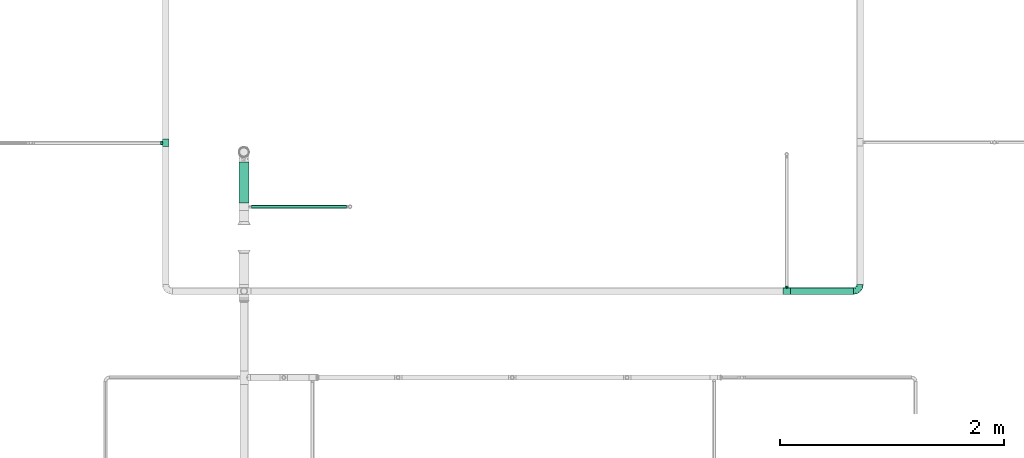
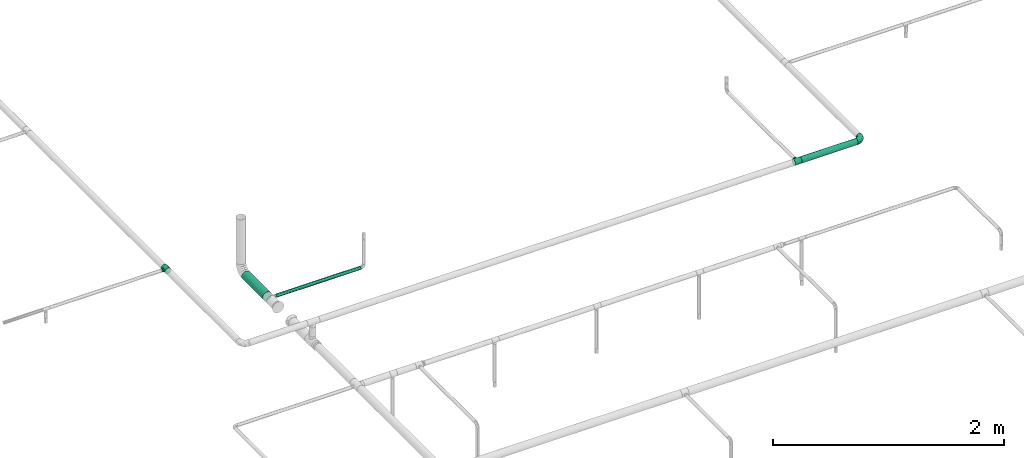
# One storey, part 6 of 45: 3 flow fittings, 3 flow segments.
"""IFC2X3 building model written with IfcOpenShell, lengths in millimetres."""

import ifcopenshell
import ifcopenshell.guid

model = None  # the IFC model being written
_history = None  # IfcOwnerHistory: only IFC2X3 demands one
_inside = {}  # id of a spatial element -> (the spatial element, [elements in it])
_under = {}  # id of a project, library or spatial element -> (it, [spatial elements below it])
_declared = {}  # id of a project -> (the project, [libraries it declares])
_typed = {}  # id of a type object -> (the type object, [elements of that type])
_made_of = {}  # id of a material, layer set ... -> (it, [elements and type objects made of it])


def new_model(schema):
    """Start an empty IFC model of exactly this schema.

    Asked for "IFC4X3", IfcOpenShell would pick the latest addendum, in which some entities
    have other attributes; the version numbers below select the first issue.
    IFC2X3 requires an IfcOwnerHistory on every rooted entity: one is made here for all.
    """
    global model, _history
    if schema == "IFC4X3":
        model = ifcopenshell.file(schema_version=(4, 3, 0, 0))
    else:
        model = ifcopenshell.file(schema=schema)
    _inside.clear()
    _under.clear()
    _declared.clear()
    _typed.clear()
    _made_of.clear()
    _history = None
    if model.schema == "IFC2X3":
        org = make("IfcOrganization", Name="unknown")
        user = make(
            "IfcPersonAndOrganization",
            ThePerson=make("IfcPerson", FamilyName="unknown"),
            TheOrganization=org,
        )
        app = make(
            "IfcApplication",
            ApplicationDeveloper=org,
            Version="unknown",
            ApplicationFullName="unknown",
            ApplicationIdentifier="unknown",
        )
        _history = make(
            "IfcOwnerHistory",
            OwningUser=user,
            OwningApplication=app,
            ChangeAction="ADDED",
            CreationDate=0,
        )
    return model


def make(cls, **values):
    """One entity of the class cls with the attributes given. An attribute that is None is left unset."""
    return model.create_entity(
        cls, **{name: value for name, value in values.items() if value is not None}
    )


def entity(cls, *values):
    """Any entity or typed value of the class cls, its attributes in the order of the schema. None: left unset."""
    e = model.create_entity(cls)
    for i, value in enumerate(values):
        if value is not None:
            e[i] = value
    return e


def rooted(cls, **values):
    """An entity with a GlobalId (a new one), such as an element, a storey or a relation."""
    return make(cls, GlobalId=ifcopenshell.guid.new(), OwnerHistory=_history, **values)


def si_unit(unit_type, name, prefix=None):
    """IfcSIUnit, for example si_unit("LENGTHUNIT", "METRE", prefix="MILLI")."""
    return make("IfcSIUnit", UnitType=unit_type, Prefix=prefix, Name=name)


def converted_unit(unit_type, name, factor, base, dimensions=None, offset=None):
    """IfcConversionBasedUnit, such as the inch: factor (a typed value) times the base unit."""
    return make(
        "IfcConversionBasedUnit"
        if offset is None
        else "IfcConversionBasedUnitWithOffset",
        ConversionOffset=offset,
        Dimensions=None
        if dimensions is None
        else entity("IfcDimensionalExponents", *dimensions),
        UnitType=unit_type,
        Name=name,
        ConversionFactor=make(
            "IfcMeasureWithUnit", ValueComponent=factor, UnitComponent=base
        ),
    )


def derived_unit(unit_type, elements):
    """IfcDerivedUnit: a product of units, each with its exponent."""
    return make(
        "IfcDerivedUnit",
        Elements=[
            make("IfcDerivedUnitElement", Unit=unit, Exponent=power)
            for unit, power in elements
        ],
        UnitType=unit_type,
    )


def assignment(units):
    """IfcUnitAssignment: the units of a project."""
    return None if units is None else make("IfcUnitAssignment", Units=units)


def point(xyz):
    """IfcCartesianPoint."""
    return None if xyz is None else make("IfcCartesianPoint", Coordinates=xyz)


def direction(xyz):
    """IfcDirection."""
    return None if xyz is None else make("IfcDirection", DirectionRatios=xyz)


def frame(location, z_axis=None, x_axis=None):
    """IfcAxis2Placement3D, a coordinate frame: its origin and axes. An axis left out is left unset."""
    return make(
        "IfcAxis2Placement3D",
        Location=point(location),
        Axis=direction(z_axis),
        RefDirection=direction(x_axis),
    )


def frame_2d(location, x_axis=None):
    """IfcAxis2Placement2D, a coordinate frame in the plane: its origin and x axis."""
    return make(
        "IfcAxis2Placement2D", Location=point(location), RefDirection=direction(x_axis)
    )


def origin_with_axes():
    """The frame at (0, 0, 0) with the z axis (0, 0, 1) and the x axis (1, 0, 0) written out."""
    return frame((0.0, 0.0, 0.0), z_axis=(0.0, 0.0, 1.0), x_axis=(1.0, 0.0, 0.0))


def origin_2d_with_axis():
    """The frame at (0, 0) in the plane with the x axis (1, 0) written out."""
    return frame_2d((0.0, 0.0), x_axis=(1.0, 0.0))


def place(relative_to, where):
    """IfcLocalPlacement: puts the frame where relative to a parent placement (None: the world)."""
    return make(
        "IfcLocalPlacement", PlacementRelTo=relative_to, RelativePlacement=where
    )


def context(
    kind, dimensions, precision=None, world=None, true_north=None, identifier=None
):
    """IfcGeometricRepresentationContext, for example the 3D "Model" context."""
    return make(
        "IfcGeometricRepresentationContext",
        ContextIdentifier=identifier,
        ContextType=kind,
        CoordinateSpaceDimension=dimensions,
        Precision=precision,
        WorldCoordinateSystem=world,
        TrueNorth=true_north,
    )


def subcontext(parent, identifier, kind, view, scale=None):
    """IfcGeometricRepresentationSubContext, for example "Body" below "Model"."""
    return make(
        "IfcGeometricRepresentationSubContext",
        ContextIdentifier=identifier,
        ContextType=kind,
        ParentContext=parent,
        TargetScale=scale,
        TargetView=view,
    )


def project(units=None, contexts=None):
    """IfcProject with its units and contexts."""
    return rooted(
        "IfcProject",
        Name="project",
        RepresentationContexts=contexts,
        UnitsInContext=assignment(units),
    )


def spatial(cls, under=None, at=None, **own):
    """A site, building, storey or space (cls), placed at a placement, below another one or the project."""
    s = rooted(cls, ObjectPlacement=at, **own)
    if under is not None:
        _under.setdefault(under.id(), (under, []))[1].append(s)
    return s


def profile(cls, at=None, kind="AREA", **sizes):
    """A parametric profile (cls). Its sizes go by their IFC names, for example OverallWidth=200.0."""
    return make(cls, ProfileType=kind, Position=at, **sizes)


def hollow_circle(**sizes):
    """IfcCircleHollowProfileDef."""
    return profile("IfcCircleHollowProfileDef", **sizes)


def extrude(swept, where, along, depth):
    """IfcExtrudedAreaSolid: the profile swept, set in the frame where, extruded along a direction by depth."""
    return make(
        "IfcExtrudedAreaSolid",
        SweptArea=swept,
        Position=where,
        ExtrudedDirection=direction(along),
        Depth=depth,
    )


def faces_of(points, faces, orient=None, outer=None):
    """IfcFace entities. A face is a list of loops; a loop is a list of indices into points, from 0.

    orient and outer hold one flag for each loop. By default every Orientation is true, the
    first loop of a face is its IfcFaceOuterBound and the others are IfcFaceBound.
    """
    made = []
    for i, loops in enumerate(faces):
        bounds = []
        for j, loop in enumerate(loops):
            is_outer = j == 0 if outer is None else outer[i][j]
            bounds.append(
                make(
                    "IfcFaceOuterBound" if is_outer else "IfcFaceBound",
                    Bound=make("IfcPolyLoop", Polygon=[points[k] for k in loop]),
                    Orientation=True if orient is None else orient[i][j],
                )
            )
        made.append(make("IfcFace", Bounds=bounds))
    return made


def open_shell(faces, orient=None, outer=None):
    """The faces of one IfcOpenShell. surface_model builds it on its shared points."""
    return ("IfcOpenShell", faces, orient, outer)


def surface_model(cls, points, shells):
    """IfcFaceBasedSurfaceModel or IfcShellBasedSurfaceModel (cls): surfaces that need not close."""
    shared = [point(p) for p in points]
    made = [make(c, CfsFaces=faces_of(shared, fs, o, b)) for c, fs, o, b in shells]
    if cls == "IfcFaceBasedSurfaceModel":
        return make(cls, FbsmFaces=made)
    return make(cls, SbsmBoundary=made)


def shape(context_of_items, identifier, shape_type, items):
    """IfcShapeRepresentation: the items that make up one representation, for example the "Body"."""
    return make(
        "IfcShapeRepresentation",
        ContextOfItems=context_of_items,
        RepresentationIdentifier=identifier,
        RepresentationType=shape_type,
        Items=items,
    )


def source(mapping_origin, context_of_items, identifier, shape_type, items):
    """IfcRepresentationMap: a shape defined once, which mapped items show again and again."""
    return make(
        "IfcRepresentationMap",
        MappingOrigin=mapping_origin,
        MappedRepresentation=shape(context_of_items, identifier, shape_type, items),
    )


def transform(
    local_origin,
    x_axis=None,
    y_axis=None,
    z_axis=None,
    scale=None,
    scale2=None,
    scale3=None,
    uniform=True,
):
    """IfcCartesianTransformationOperator3D, or its non-uniform kind. x_axis, y_axis, z_axis: its Axis1, 2, 3."""
    if uniform:
        return make(
            "IfcCartesianTransformationOperator3D",
            Axis1=direction(x_axis),
            Axis2=direction(y_axis),
            LocalOrigin=point(local_origin),
            Scale=scale,
            Axis3=direction(z_axis),
        )
    return make(
        "IfcCartesianTransformationOperator3DnonUniform",
        Axis1=direction(x_axis),
        Axis2=direction(y_axis),
        LocalOrigin=point(local_origin),
        Scale=scale,
        Axis3=direction(z_axis),
        Scale2=scale2,
        Scale3=scale3,
    )


def mapped(mapping_source, mapping_target):
    """IfcMappedItem: shows the shape of a source again, moved by a transform."""
    return make(
        "IfcMappedItem", MappingSource=mapping_source, MappingTarget=mapping_target
    )


def made_of(thing, what):
    """Note that an element or type object is made of a material, layer set ...; save() writes the relation."""
    if what is not None:
        _made_of.setdefault(what.id(), (what, []))[1].append(thing)
    return thing


def type_object(cls, material=None, **own):
    """A type object (cls), such as IfcWallType, which elements share."""
    return made_of(rooted(cls, **own), material)


def element(
    cls,
    number,
    at=None,
    inside=None,
    cuts=None,
    type_object=None,
    material=None,
    context=None,
    identifier="Body",
    shape_type=None,
    held_by="IfcProductDefinitionShape",
    body=None,
    shapes=None,
    **own,
):
    """One element of the class cls, such as IfcWall. Its Tag is "e" and its number.

    at: its placement. inside: the storey or other place that contains it. cuts: it is an
    opening in that element (IfcRelVoidsElement). A single representation is given by context,
    identifier, shape_type and body (its items); several are given by shapes. held_by: the class
    of the entity that holds the representations. save() writes the other relations.
    """
    e = rooted(cls, Tag="e%d" % number, ObjectPlacement=at, **own)
    if body is not None:
        shapes = [shape(context, identifier, shape_type, body)]
    if shapes is not None:
        e.Representation = make(held_by, Representations=shapes)
    if inside is not None:
        _inside.setdefault(inside.id(), (inside, []))[1].append(e)
    if cuts is not None:
        rooted(
            "IfcRelVoidsElement", RelatingBuildingElement=cuts, RelatedOpeningElement=e
        )
    if type_object is not None:
        _typed.setdefault(type_object.id(), (type_object, []))[1].append(e)
    return made_of(e, material)


def aggregate(whole, parts):
    """IfcRelAggregates: a whole, such as a stair, and the parts it consists of."""
    return rooted("IfcRelAggregates", RelatingObject=whole, RelatedObjects=parts)


def save(model, path):
    """Write the relations noted so far, then the file.

    IfcRelAggregates (storeys below a building ...), IfcRelContainedInSpatialStructure (elements
    in a storey), IfcRelDefinesByType, IfcRelAssociatesMaterial and IfcRelDeclares: one each for
    every whole, place, type object, material and project.
    """
    for whole, parts in _under.values():
        aggregate(whole, parts)
    for where, things in _inside.values():
        rooted(
            "IfcRelContainedInSpatialStructure",
            RelatedElements=things,
            RelatingStructure=where,
        )
    for kind, things in _typed.values():
        rooted("IfcRelDefinesByType", RelatedObjects=things, RelatingType=kind)
    for what, things in _made_of.values():
        rooted("IfcRelAssociatesMaterial", RelatedObjects=things, RelatingMaterial=what)
    for by, libraries in _declared.values():
        rooted("IfcRelDeclares", RelatingContext=by, RelatedDefinitions=libraries)
    model.write(path)


model = new_model("IFC2X3")

# Units and contexts
model_context = context("Model", 3, precision=0.01, world=frame((0.0, 4.29681676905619e-09, 0.0)), true_north=direction((4.01073788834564e-13, 1.0)))
plan_context = context("Plan", 3, precision=0.01, world=frame((0.0, 4.29681676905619e-09, 0.0)), true_north=direction((4.01073788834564e-13, 1.0)))
body_context = subcontext(model_context, "Body", "Model", "MODEL_VIEW")
ifc_project = project(units=[converted_unit("PLANEANGLEUNIT", "DEGREE", entity("IfcPositiveLengthMeasure", 0.0174532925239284), si_unit("PLANEANGLEUNIT", "RADIAN"), dimensions=[0, 0, 0, 0, 0, 0, 0]), si_unit("AREAUNIT", "SQUARE_METRE"), si_unit("LENGTHUNIT", "METRE", prefix="MILLI"), si_unit("MASSUNIT", "GRAM", prefix="KILO"), si_unit("POWERUNIT", "WATT"), si_unit("PRESSUREUNIT", "PASCAL", prefix="KILO"), si_unit("FORCEUNIT", "NEWTON", prefix="KILO"), si_unit("ELECTRICVOLTAGEUNIT", "VOLT"), si_unit("ELECTRICCURRENTUNIT", "AMPERE"), si_unit("THERMODYNAMICTEMPERATUREUNIT", "DEGREE_CELSIUS"), si_unit("TIMEUNIT", "SECOND"), si_unit("VOLUMEUNIT", "CUBIC_METRE"), derived_unit("LINEARVELOCITYUNIT", [(si_unit("LENGTHUNIT", "METRE"), 1), (si_unit("TIMEUNIT", "SECOND"), -1)]), derived_unit("VOLUMETRICFLOWRATEUNIT", [(si_unit("VOLUMEUNIT", "CUBIC_METRE"), 1), (si_unit("TIMEUNIT", "SECOND"), -1)]), derived_unit("THERMALTRANSMITTANCEUNIT", [(si_unit("POWERUNIT", "WATT"), 1), (si_unit("THERMODYNAMICTEMPERATUREUNIT", "KELVIN"), -1), (si_unit("AREAUNIT", "SQUARE_METRE"), -1)]), derived_unit("SOUNDPRESSUREUNIT", [(si_unit("PRESSUREUNIT", "PASCAL"), 1)])], contexts=[model_context, plan_context])

# Site, building, storey
site_placement = place(None, frame((0.0, -4.29681676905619e-09, 0.0), z_axis=(0.0, 0.0, 1.0), x_axis=(1.0, 0.0, 0.0)))
site = spatial("IfcSite", under=ifc_project, at=site_placement, CompositionType="ELEMENT")
building_placement = place(site_placement, frame((0.0, 4.29681676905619e-09, 0.0), z_axis=(0.0, 0.0, 1.0), x_axis=(1.0, 0.0, 0.0)))
building = spatial("IfcBuilding", under=site, at=building_placement, Name="mc-building", CompositionType="ELEMENT")
storey_placement = place(building_placement, frame((0.0, 0.0, 210200.0), z_axis=(0.0, 0.0, 1.0), x_axis=(1.0, 0.0, 0.0)))
storey = spatial("IfcBuildingStorey", under=building, at=storey_placement, Name="Nivå F - 0,7 m", CompositionType="ELEMENT", Elevation=210200.0)

# Flow fittings
pipe_fitting_type_1 = type_object("IfcPipeFittingType", Name="magi_pipe_fe_tee_centric_90_001", PredefinedType="JUNCTION")
shared_shape_1 = source(origin_with_axes(), body_context, "Body", "SurfaceModel", [
    surface_model("IfcShellBasedSurfaceModel", [(-33.8, 15.1, -26.15397), (-33.8, 7.81634, -29.17096), (-33.8, 0.0, -30.2), (-33.8, 29.17096, -7.81634), (-33.8, 26.15397, -15.1), (-33.8, 21.35462, -21.35462), (-33.8, 30.2, 0.0), (-33.8, -30.2, 0.0), (-33.8, -15.1, -26.15397), (-33.8, -21.35462, -21.35462), (-33.8, -7.81634, -29.17096), (-33.8, -26.15397, -15.1), (-33.8, -29.17096, -7.81634), (-33.8, 26.15397, 15.1), (-33.8, 29.17096, 7.81634), (-33.8, 15.1, 26.15397), (-33.8, -21.35462, 21.35462), (-33.8, 21.35462, 21.35462), (-33.8, 7.81634, 29.17096), (-33.8, -29.17096, 7.81634), (-33.8, -26.15397, 15.1), (-33.8, -7.81634, 29.17096), (-33.8, 0.0, 30.2), (-33.8, -15.1, 26.15397), (33.8, 29.17096, -7.81634), (33.8, 0.0, -30.2), (33.8, 7.81634, -29.17096), (33.8, 21.35462, -21.35462), (33.8, 15.1, -26.15397), (33.8, 26.15397, -15.1), (33.8, -30.2, 0.0), (33.8, -7.81634, -29.17096), (33.8, -21.35462, -21.35462), (33.8, -15.1, -26.15397), (33.8, -29.17096, -7.81634), (33.8, -26.15397, -15.1), (33.8, 30.2, 0.0), (33.8, 29.17096, 7.81634), (33.8, 26.15397, 15.1), (33.8, -29.17096, 7.81634), (33.8, 15.1, 26.15397), (33.8, 7.81634, 29.17096), (33.8, 21.35462, 21.35462), (33.8, -21.35462, 21.35462), (33.8, -26.15397, 15.1), (33.8, -15.1, 26.15397), (33.8, 0.0, 30.2), (33.8, -7.81634, 29.17096), (33.8, -29.68548, 3.90817), (15.846, -29.62306, 5.87488), (16.373, -29.91153, 2.93744), (12.91037, -28.16217, 10.90561), (2.99213, -25.2068, 16.63301), (16.9, -30.2, 0.0), (33.8, -27.66246, 11.45817), (8.50854, -26.43531, 14.60187), (-8.51006, -26.43579, 14.60099), (-33.8, -27.66246, 11.45817), (-12.91447, -28.16405, 10.90075), (-15.84655, -29.62335, 5.87341), (-33.8, -29.68548, 3.90817), (-16.37327, -29.91168, 2.93671), (-16.9, -30.2, 0.0), (-2.99705, -25.20739, 16.63213), (2.99213, -25.2068, -16.63301), (-16.37327, -29.91168, -2.93671), (8.50854, -26.43531, -14.60187), (33.8, -27.66246, -11.45817), (16.373, -29.91153, -2.93744), (-33.8, -29.68548, -3.90817), (-15.84655, -29.62335, -5.87341), (15.846, -29.62306, -5.87488), (12.91037, -28.16217, -10.90561), (33.8, -29.68548, -3.90817), (-2.99705, -25.20739, -16.63213), (-8.51006, -26.43579, -14.60099), (-12.91447, -28.16405, -10.90075), (-33.8, -27.66246, -11.45817), (4.37404, -45.3, -16.32415), (-16.9, -45.3, 0.0), (0.0, -45.3, -16.9), (14.63583, -45.3, -8.45), (8.45, -45.3, -14.63583), (16.32415, -45.3, -4.37404), (11.9501, -45.3, -11.9501), (-11.9501, -45.3, -11.9501), (-8.45, -45.3, -14.63583), (-4.37404, -45.3, -16.32415), (-14.63583, -45.3, -8.45), (-16.32415, -45.3, -4.37404), (16.9, -45.3, 0.0), (8.45, -45.3, 14.63583), (16.32415, -45.3, 4.37404), (14.63583, -45.3, 8.45), (-8.45, -45.3, 14.63583), (11.9501, -45.3, 11.9501), (4.37404, -45.3, 16.32415), (-16.32415, -45.3, 4.37404), (-11.9501, -45.3, 11.9501), (-14.63583, -45.3, 8.45), (0.0, -45.3, 16.9), (-4.37404, -45.3, 16.32415), (-5.75355, -25.82159, 15.61656), (-0.00246, -25.20709, 16.63257), (5.75034, -25.82105, 15.61744), (5.75034, -25.82105, -15.61744), (-0.00246, -25.20709, -16.63257), (-5.75355, -25.82159, -15.61656)], [open_shell([[[0, 1, 2]], [[3, 0, 2]], [[0, 3, 4]], [[5, 0, 4]], [[6, 2, 7]], [[8, 9, 10]], [[9, 2, 10]], [[11, 12, 9]], [[7, 9, 12]], [[9, 7, 2]], [[6, 3, 2]], [[13, 14, 6]], [[7, 15, 13]], [[7, 16, 15]], [[17, 13, 15]], [[18, 15, 16]], [[19, 20, 7]], [[7, 20, 16]], [[21, 22, 23]], [[16, 23, 22]], [[16, 22, 18]], [[7, 13, 6]], [[24, 25, 26]], [[27, 26, 28]], [[29, 24, 26]], [[29, 26, 27]], [[25, 24, 30]], [[31, 32, 33]], [[32, 31, 34]], [[32, 34, 35]], [[34, 31, 30]], [[31, 25, 30]], [[24, 36, 30]], [[36, 37, 38]], [[39, 36, 38]], [[40, 41, 38]], [[40, 38, 42]], [[43, 38, 41]], [[39, 43, 44]], [[39, 38, 43]], [[45, 46, 47]], [[46, 45, 43]], [[41, 46, 43]], [[36, 39, 30]], [[48, 39, 49]], [[30, 48, 50]], [[39, 51, 49]], [[44, 43, 52]], [[30, 50, 53]], [[51, 54, 55]], [[52, 55, 44]], [[48, 49, 50]], [[43, 16, 52]], [[55, 54, 44]], [[56, 57, 58]], [[59, 60, 61]], [[62, 61, 7]], [[59, 58, 19]], [[56, 63, 20]], [[51, 39, 54]], [[20, 57, 56]], [[20, 63, 16]], [[58, 57, 19]], [[63, 52, 16]], [[7, 61, 60]], [[59, 19, 60]], [[43, 23, 16]], [[22, 47, 46]], [[21, 45, 47]], [[18, 46, 41]], [[38, 37, 14]], [[17, 40, 42]], [[13, 42, 38]], [[41, 40, 15]], [[6, 37, 36]], [[23, 45, 21]], [[21, 47, 22]], [[18, 22, 46]], [[41, 15, 18]], [[15, 40, 17]], [[13, 17, 42]], [[14, 13, 38]], [[37, 6, 14]], [[45, 23, 43]], [[4, 24, 29]], [[3, 36, 24]], [[5, 29, 27]], [[25, 31, 10]], [[1, 28, 26]], [[2, 26, 25]], [[27, 28, 0]], [[8, 31, 33]], [[6, 36, 3]], [[3, 24, 4]], [[5, 4, 29]], [[27, 0, 5]], [[0, 28, 1]], [[2, 1, 26]], [[10, 2, 25]], [[31, 8, 10]], [[33, 9, 8]], [[32, 35, 64]], [[7, 65, 62]], [[66, 64, 35]], [[67, 66, 35]], [[32, 64, 9]], [[53, 68, 30]], [[69, 70, 65]], [[71, 72, 34]], [[71, 73, 68]], [[66, 67, 72]], [[34, 72, 67]], [[74, 75, 11]], [[76, 12, 77]], [[11, 9, 74]], [[76, 77, 75]], [[74, 9, 64]], [[76, 70, 12]], [[71, 34, 73]], [[70, 69, 12]], [[65, 7, 69]], [[30, 68, 73]], [[77, 11, 75]], [[32, 9, 33]], [[78, 79, 80]], [[81, 78, 82]], [[81, 83, 78]], [[81, 82, 84]], [[79, 78, 83]], [[80, 85, 86]], [[86, 87, 80]], [[88, 79, 89]], [[85, 80, 88]], [[79, 88, 80]], [[83, 90, 79]], [[91, 90, 92]], [[91, 92, 93]], [[94, 79, 91]], [[91, 93, 95]], [[94, 91, 96]], [[97, 98, 99]], [[98, 97, 94]], [[94, 100, 101]], [[97, 79, 94]], [[96, 100, 94]], [[91, 79, 90]], [[97, 61, 79]], [[58, 99, 98]], [[97, 99, 59]], [[98, 94, 56]], [[61, 62, 79]], [[59, 99, 58]], [[101, 63, 102]], [[56, 58, 98]], [[100, 52, 103]], [[91, 104, 96]], [[100, 96, 52]], [[50, 49, 92]], [[50, 90, 53]], [[104, 91, 55]], [[102, 94, 101]], [[102, 56, 94]], [[100, 63, 101]], [[97, 59, 61]], [[55, 91, 95]], [[95, 51, 55]], [[52, 96, 104]], [[92, 49, 93]], [[90, 50, 92]], [[93, 49, 51]], [[93, 51, 95]], [[103, 63, 100]], [[83, 68, 90]], [[72, 81, 84]], [[83, 81, 71]], [[84, 82, 66]], [[68, 53, 90]], [[71, 81, 72]], [[78, 64, 105]], [[66, 72, 84]], [[80, 74, 106]], [[86, 107, 87]], [[65, 70, 89]], [[105, 82, 78]], [[105, 66, 82]], [[75, 86, 85]], [[83, 71, 68]], [[70, 88, 89]], [[65, 79, 62]], [[85, 88, 76]], [[80, 64, 78]], [[87, 107, 74]], [[74, 80, 87]], [[75, 107, 86]], [[75, 85, 76]], [[76, 88, 70]], [[79, 65, 89]], [[106, 64, 80]]])]),
])
for number, where, z_axis, x_axis, name in (
    (1, (323419.17326, 463723.25463, 3145.0), (0.0, 0.0, -1.0), (0.0, 1.0, 0.0), "magi_pipe_fe_tee_centric_90_001"),
    (2, (328964.5, 462400.28184, 3145.0), (0.0, 0.0, -1.0), (1.0, 0.0, 0.0), "magi_pipe_fe_tee_centric_90_001"),
):
    element("IfcFlowFitting", number, at=place(storey_placement, frame(where, z_axis=z_axis, x_axis=x_axis)), inside=storey, type_object=pipe_fitting_type_1, Name=name, context=body_context, shape_type="MappedRepresentation", body=[
        mapped(shared_shape_1, transform((0.0, 0.0, 0.0), scale=1.0)),
    ])
pipe_fitting_type_2 = type_object("IfcPipeFittingType", Name="magi_pipe_fe_elbow_short_001", PredefinedType="BEND")
shared_shape_2 = source(origin_with_axes(), body_context, "Body", "SurfaceModel", [
    surface_model("IfcShellBasedSurfaceModel", [(-60.4, 15.1, -26.15397), (-60.4, 7.81634, -29.17096), (-60.4, 0.0, -30.2), (-60.4, -29.17096, -7.81634), (-60.4, -21.35462, 21.35462), (-60.4, 29.17096, -7.81634), (-60.4, 26.15397, -15.1), (-60.4, 21.35462, -21.35462), (-60.4, -15.1, -26.15397), (-60.4, -21.35462, -21.35462), (-60.4, -7.81634, -29.17096), (-60.4, -26.15397, -15.1), (-60.4, -30.2, 0.0), (-60.4, -29.17096, 7.81634), (-60.4, 30.2, 0.0), (-60.4, 29.17096, 7.81634), (-60.4, 26.15397, 15.1), (-60.4, 7.81634, 29.17096), (-60.4, 15.1, 26.15397), (-60.4, 21.35462, 21.35462), (-60.4, -26.15397, 15.1), (-60.4, -7.81634, 29.17096), (-60.4, 0.0, 30.2), (-60.4, -15.1, 26.15397), (0.0, 60.4, -30.2), (-7.81634, 60.4, -29.17096), (-15.1, 60.4, -26.15397), (21.35462, 60.4, 21.35462), (29.17096, 60.4, -7.81634), (-26.15397, 60.4, -15.1), (-29.17096, 60.4, -7.81634), (-21.35462, 60.4, -21.35462), (7.81634, 60.4, -29.17096), (21.35462, 60.4, -21.35462), (15.1, 60.4, -26.15397), (26.15397, 60.4, -15.1), (29.17096, 60.4, 7.81634), (30.2, 60.4, 0.0), (-30.2, 60.4, 0.0), (-29.17096, 60.4, 7.81634), (-26.15397, 60.4, 15.1), (-7.81634, 60.4, 29.17096), (-21.35462, 60.4, 21.35462), (-15.1, 60.4, 26.15397), (26.15397, 60.4, 15.1), (15.1, 60.4, 26.15397), (0.0, 60.4, 30.2), (7.81634, 60.4, 29.17096), (-40.79975, -26.48639, 9.49143), (-44.2927, -23.46036, 16.95222), (-32.40306, -25.76572, 0.0), (-45.54716, -27.84754, 0.0), (-7.73382, -10.42985, 11.64553), (-2.102, -8.06735, 6.35117), (1.74449, -1.74448, 12.51332), (-46.13593, -4.00068, 29.68351), (-42.2898, 4.62925, 30.14853), (10.31662, 7.37496, 11.34434), (18.44156, 24.57514, 15.02148), (7.07276, 10.95732, 19.27498), (-30.06693, -0.27102, 29.27145), (-44.17726, -11.39441, 27.16031), (-23.4551, -7.13383, 25.24246), (-38.74025, -17.25266, 22.43475), (-27.059, -23.14697, 6.2131), (-19.77486, -19.33133, 0.0), (-10.95732, -7.07276, 19.27498), (-5.39458, 5.39458, 24.69106), (-29.52069, 48.20084, 13.12597), (-25.22813, 47.01796, 19.8404), (-11.27311, 52.093, 28.2877), (-4.13904, 45.17494, 30.12582), (-46.55352, 11.8443, 28.52822), (-7.88305, 20.22717, 29.65331), (-15.00576, 5.54025, 28.20072), (-3.0852, 16.31623, 27.75343), (-52.24998, 18.2886, 24.60768), (-10.49591, 29.69865, 30.14582), (-22.36958, 22.36958, 29.4662), (-17.98262, 13.19715, 30.04443), (-47.74519, 32.16745, 6.63994), (-48.21585, 29.51581, 13.12396), (-37.49729, 37.49729, 11.28901), (-47.20967, 25.1754, 19.81929), (17.25266, 38.74025, 22.43475), (-31.32046, 40.03273, 17.09289), (11.39441, 44.17725, 27.16031), (23.46036, 44.2927, 16.95222), (26.48639, 40.79975, 9.49143), (-7.14666, -12.89694, 0.0), (-14.66463, -16.61192, 7.82462), (4.00068, 46.13593, 29.68351), (-33.18602, 12.93608, 29.65955), (-29.63414, 7.40029, 30.18711), (19.33133, 19.77486, 0.0), (23.14697, 27.059, 6.2131), (16.61192, 14.66463, 7.82462), (27.84754, 45.54716, 0.0), (-32.10611, 20.49149, 27.93323), (-24.57514, -18.44156, 15.02148), (-21.89487, 39.03366, 25.38224), (-18.45005, 50.6405, 24.73297), (-31.78933, 48.71949, 6.47886), (-37.84917, 39.61073, 5.315), (13.91334, 24.32737, 20.46816), (7.13383, 23.4551, 25.24246), (-34.24603, 45.3, 0.0), (-27.95749, 31.89166, 24.81537), (-41.58677, 20.50028, 25.43151), (-0.46157, 0.46157, 17.84239), (-17.23338, 31.26213, 29.03145), (-24.05994, 29.23812, 27.47858), (-13.06094, 40.92174, 28.76128), (-31.83392, 33.72702, 21.39203), (-38.78737, 32.45032, 16.84022), (0.27102, 30.06693, 29.27145), (-24.21469, -13.23741, 21.05734), (8.23548, 2.19333, 6.02161), (25.76572, 32.40306, 0.0), (12.89694, 7.14666, 0.0), (-45.3, 34.24603, 0.0), (2.87514, -2.87514, 0.0), (-44.53432, 26.00869, -20.11577), (-48.18822, 29.5248, -13.12766), (-24.67192, -7.62159, -25.33714), (-26.22398, -0.37671, -28.72374), (-12.13397, -0.50536, -24.74577), (-47.80891, 3.81859, -30.10171), (-44.05719, -27.03585, -9.84546), (-37.94552, -22.39569, -16.35738), (-28.81663, -22.64668, -10.132), (-43.93799, 12.32789, -28.63778), (-33.27, 7.1392, -30.19348), (-26.0087, 44.53432, -20.11577), (-48.89164, 31.68872, -6.60822), (-18.95522, 47.41145, -24.9828), (-12.32789, 43.93799, -28.63778), (-38.42778, 38.42778, -7.21049), (18.04263, 43.69152, -22.80146), (10.42233, 38.24532, -26.85918), (11.90576, 51.00473, -27.48545), (-5.88381, -10.62327, -7.95335), (-5.9694, -7.83116, -13.76182), (3.24899, -2.56331, -7.96861), (-17.62229, 16.32998, -30.18286), (-28.62959, 17.86952, -29.30113), (-47.41145, 18.95522, -24.98279), (-50.84455, -24.04089, -17.54629), (-29.38053, 34.30665, -22.74674), (-27.91099, 27.91099, -26.51666), (-36.91219, 25.51094, -23.99233), (2.63361, -0.55507, -12.94367), (-43.69152, -18.04263, -22.80146), (22.39569, 37.94552, -16.35738), (27.03585, 44.05719, -9.84546), (22.64668, 28.81663, -10.132), (-51.00473, -11.90576, -27.48545), (3.80785, 44.49426, -29.64782), (-19.0921, -14.69952, -16.47487), (-22.5489, -12.31934, -21.1263), (-10.94772, -7.46239, -18.88204), (-32.95885, -13.78948, -23.71249), (-38.24532, -10.42233, -26.85918), (-44.49427, -3.80785, -29.64782), (-22.6301, 37.15314, -25.58239), (-31.68872, 48.89164, -6.60822), (-3.8186, 47.80891, -30.10171), (-10.66133, 10.66133, -28.51691), (0.37671, 26.22398, -28.72374), (1.27136, 14.18619, -25.18541), (-29.5248, 48.18821, -13.12766), (-36.27113, 36.27113, -14.88553), (24.04089, 50.84455, -17.54629), (17.50188, 24.2636, -16.21902), (9.73525, 11.44907, -16.75087), (12.31934, 22.5489, -21.1263), (6.24176, 25.78208, -26.38266), (-7.1392, 33.27, -30.19348), (-36.7166, 19.4356, -27.21946), (-18.00754, 29.38864, -29.15505), (-0.28629, 0.28629, -17.49884), (-13.98848, -16.88492, -5.19509), (15.48569, 15.00432, -11.24742), (16.88492, 13.98848, -5.19509), (3.55782, 9.20508, -21.18402), (-15.00432, -15.48569, -11.24742)], [open_shell([[[0, 1, 2]], [[2, 3, 4]], [[0, 5, 6]], [[7, 0, 6]], [[2, 4, 0]], [[8, 9, 10]], [[9, 2, 10]], [[11, 3, 9]], [[9, 3, 2]], [[12, 13, 3]], [[5, 0, 4]], [[14, 4, 15]], [[16, 15, 17]], [[17, 18, 19]], [[16, 17, 19]], [[17, 15, 4]], [[20, 4, 13]], [[13, 4, 3]], [[21, 22, 23]], [[17, 4, 23]], [[17, 23, 22]], [[14, 5, 4]], [[24, 25, 26]], [[27, 28, 24]], [[29, 30, 26]], [[29, 26, 31]], [[26, 27, 24]], [[32, 33, 34]], [[32, 24, 33]], [[33, 28, 35]], [[24, 28, 33]], [[28, 36, 37]], [[27, 26, 30]], [[38, 39, 40]], [[38, 40, 41]], [[42, 43, 41]], [[42, 41, 40]], [[41, 27, 30]], [[36, 27, 44]], [[28, 27, 36]], [[45, 46, 47]], [[45, 27, 41]], [[46, 45, 41]], [[30, 38, 41]], [[48, 49, 20]], [[50, 48, 51]], [[52, 53, 54]], [[13, 48, 20]], [[13, 51, 48]], [[22, 55, 56]], [[20, 49, 4]], [[57, 58, 59]], [[60, 61, 62]], [[63, 23, 4]], [[63, 61, 23]], [[64, 50, 65]], [[62, 66, 67]], [[40, 68, 69]], [[41, 70, 71]], [[17, 72, 18]], [[73, 74, 75]], [[18, 76, 19]], [[21, 55, 22]], [[77, 78, 79]], [[80, 81, 82]], [[16, 83, 81]], [[84, 27, 45]], [[14, 15, 80]], [[15, 16, 81]], [[68, 85, 69]], [[83, 16, 19]], [[22, 56, 17]], [[45, 86, 84]], [[19, 76, 83]], [[87, 58, 88]], [[40, 39, 68]], [[89, 90, 65]], [[46, 91, 47]], [[65, 90, 64]], [[46, 41, 71]], [[92, 93, 79]], [[88, 36, 44]], [[44, 27, 87]], [[87, 88, 44]], [[94, 95, 96]], [[88, 97, 36]], [[98, 72, 92]], [[49, 99, 63]], [[69, 100, 101]], [[82, 102, 103]], [[104, 105, 59]], [[106, 102, 38]], [[98, 107, 108]], [[102, 82, 68]], [[86, 45, 47]], [[69, 42, 40]], [[109, 54, 57]], [[110, 100, 111]], [[23, 61, 21]], [[101, 43, 42]], [[70, 41, 43]], [[112, 77, 71]], [[84, 86, 105]], [[96, 95, 58]], [[100, 69, 113]], [[72, 17, 56]], [[108, 113, 83]], [[81, 114, 82]], [[112, 110, 77]], [[91, 71, 115]], [[62, 61, 63]], [[55, 61, 60]], [[116, 99, 66]], [[74, 62, 67]], [[91, 86, 47]], [[105, 86, 115]], [[75, 105, 115]], [[109, 67, 66]], [[59, 105, 67]], [[48, 64, 99]], [[99, 49, 48]], [[63, 4, 49]], [[27, 84, 87]], [[58, 87, 84]], [[92, 72, 56]], [[76, 72, 108]], [[102, 68, 39]], [[82, 114, 85]], [[98, 111, 107]], [[112, 70, 101]], [[114, 83, 113]], [[82, 103, 80]], [[92, 79, 78]], [[115, 71, 77]], [[74, 79, 60]], [[77, 79, 73]], [[71, 91, 46]], [[86, 91, 115]], [[61, 55, 21]], [[56, 55, 60]], [[57, 54, 117]], [[104, 59, 58]], [[116, 66, 62]], [[52, 99, 90]], [[13, 12, 51]], [[97, 88, 118]], [[97, 37, 36]], [[53, 90, 89]], [[90, 53, 52]], [[94, 96, 119]], [[88, 95, 118]], [[117, 54, 53]], [[92, 56, 93]], [[98, 92, 78]], [[111, 98, 78]], [[72, 98, 108]], [[110, 111, 78]], [[107, 111, 100]], [[38, 102, 39]], [[102, 106, 103]], [[106, 120, 103]], [[103, 120, 80]], [[14, 80, 120]], [[15, 81, 80]], [[56, 60, 93]], [[60, 79, 93]], [[117, 121, 119]], [[121, 117, 53]], [[53, 89, 121]], [[119, 96, 117]], [[117, 96, 57]], [[77, 110, 78]], [[100, 110, 112]], [[83, 114, 81]], [[85, 114, 113]], [[69, 85, 113]], [[82, 85, 68]], [[109, 52, 54]], [[99, 52, 66]], [[69, 101, 42]], [[112, 101, 100]], [[100, 113, 107]], [[108, 107, 113]], [[62, 74, 60]], [[75, 74, 67]], [[105, 75, 67]], [[73, 75, 115]], [[77, 73, 115]], [[74, 73, 79]], [[99, 64, 90]], [[50, 64, 48]], [[118, 95, 94]], [[58, 95, 88]], [[58, 57, 96]], [[109, 57, 59]], [[72, 76, 18]], [[83, 76, 108]], [[101, 70, 43]], [[71, 70, 112]], [[58, 84, 104]], [[105, 104, 84]], [[67, 109, 59]], [[52, 109, 66]], [[62, 63, 116]], [[99, 116, 63]], [[122, 6, 123]], [[124, 125, 126]], [[2, 1, 127]], [[128, 129, 130]], [[127, 131, 132]], [[29, 31, 133]], [[120, 134, 14]], [[135, 26, 136]], [[123, 134, 137]], [[138, 139, 140]], [[122, 7, 6]], [[141, 142, 143]], [[144, 132, 145]], [[131, 0, 146]], [[128, 11, 147]], [[148, 149, 150]], [[128, 51, 3]], [[142, 151, 143]], [[152, 9, 8]], [[153, 154, 155]], [[156, 152, 8]], [[32, 157, 24]], [[158, 159, 160]], [[147, 11, 9]], [[129, 152, 161]], [[156, 8, 10]], [[162, 163, 125]], [[154, 35, 28]], [[120, 106, 137]], [[149, 148, 164]], [[38, 30, 165]], [[163, 10, 2]], [[6, 5, 123]], [[25, 166, 136]], [[167, 168, 169]], [[170, 133, 171]], [[25, 24, 166]], [[34, 33, 138]], [[157, 32, 140]], [[30, 29, 170]], [[33, 35, 172]], [[26, 135, 31]], [[132, 131, 145]], [[32, 34, 140]], [[173, 174, 175]], [[169, 168, 176]], [[25, 136, 26]], [[175, 138, 173]], [[168, 177, 157]], [[163, 162, 156]], [[153, 172, 154]], [[11, 128, 3]], [[154, 97, 118]], [[131, 178, 145]], [[0, 7, 146]], [[175, 139, 138]], [[155, 118, 94]], [[131, 1, 0]], [[146, 178, 131]], [[170, 137, 165]], [[149, 179, 145]], [[171, 133, 148]], [[160, 180, 142]], [[65, 181, 89]], [[170, 165, 30]], [[137, 171, 123]], [[172, 138, 33]], [[138, 153, 173]], [[168, 157, 139]], [[166, 157, 177]], [[176, 175, 169]], [[168, 167, 144]], [[154, 28, 97]], [[155, 182, 173]], [[162, 124, 161]], [[147, 152, 129]], [[127, 163, 2]], [[132, 144, 125]], [[132, 125, 163]], [[125, 167, 126]], [[129, 158, 130]], [[28, 37, 97]], [[143, 182, 183]], [[169, 126, 167]], [[7, 122, 146]], [[178, 150, 149]], [[136, 179, 164]], [[133, 31, 135]], [[123, 5, 134]], [[122, 123, 171]], [[133, 170, 29]], [[137, 170, 171]], [[184, 175, 174]], [[180, 160, 126]], [[126, 169, 184]], [[126, 159, 124]], [[51, 128, 50]], [[51, 12, 3]], [[131, 127, 1]], [[163, 127, 132]], [[157, 166, 24]], [[136, 166, 177]], [[164, 179, 149]], [[144, 167, 125]], [[179, 144, 145]], [[168, 144, 177]], [[136, 177, 179]], [[144, 179, 177]], [[141, 121, 89]], [[89, 181, 141]], [[154, 118, 155]], [[183, 155, 94]], [[143, 183, 119]], [[119, 183, 94]], [[155, 183, 182]], [[181, 130, 185]], [[50, 128, 130]], [[130, 181, 65]], [[50, 130, 65]], [[141, 181, 185]], [[142, 141, 185]], [[143, 121, 141]], [[158, 160, 142]], [[142, 180, 151]], [[158, 142, 185]], [[126, 160, 159]], [[130, 158, 185]], [[129, 159, 158]], [[14, 134, 5]], [[120, 137, 134]], [[137, 106, 165]], [[38, 165, 106]], [[174, 151, 180]], [[182, 143, 151]], [[150, 146, 122]], [[149, 145, 178]], [[146, 150, 178]], [[122, 171, 148]], [[148, 150, 122]], [[164, 133, 135]], [[133, 164, 148]], [[164, 135, 136]], [[138, 140, 34]], [[157, 140, 139]], [[154, 172, 35]], [[138, 172, 153]], [[163, 156, 10]], [[152, 156, 162]], [[152, 147, 9]], [[128, 147, 129]], [[155, 173, 153]], [[174, 173, 182]], [[151, 174, 182]], [[174, 180, 184]], [[126, 184, 180]], [[175, 184, 169]], [[168, 139, 176]], [[175, 176, 139]], [[161, 124, 159]], [[125, 124, 162]], [[129, 161, 159]], [[162, 161, 152]], [[143, 119, 121]]])]),
])
flow_fitting_placement = place(storey_placement, frame((329619.17326, 462400.28184, 3145.0), z_axis=(0.0, 0.0, 1.0), x_axis=(1.0, 0.0, 0.0)))
element("IfcFlowFitting", 3, at=flow_fitting_placement, inside=storey, type_object=pipe_fitting_type_2, Name="magi_pipe_fe_elbow_short_001", context=body_context, shape_type="MappedRepresentation", body=[
    mapped(shared_shape_2, transform((0.0, 0.0, 0.0), scale=1.0)),
])

# Flow segments
pipe_segment_type = type_object("IfcPipeSegmentType", Name="Stålrør normaltykke", PredefinedType="RIGIDSEGMENT")
shared_shape_3 = source(origin_with_axes(), body_context, "Body", "SweptSolid", [
    extrude(hollow_circle(Radius=44.5, WallThickness=2.0, at=origin_2d_with_axis()), frame((0.0, 0.0, 0.0), z_axis=(1.0, 0.0, 0.0), x_axis=(0.0, 1.0, 0.0)), (0.0, 0.0, 1.0), 363.8),
])
flow_segment_1_placement = place(storey_placement, frame((324119.17326, 463187.16146, 2938.0), z_axis=(0.0, 0.0, 1.0), x_axis=(0.0, 1.0, 0.0)))
element("IfcFlowSegment", 4, at=flow_segment_1_placement, inside=storey, type_object=pipe_segment_type, Name="Stålrør normaltykke", context=body_context, shape_type="MappedRepresentation", body=[
    mapped(shared_shape_3, transform((0.0, 0.0, 0.0), scale=1.0)),
])
shared_shape_4 = source(origin_with_axes(), body_context, "Body", "SweptSolid", [
    extrude(hollow_circle(Radius=16.9, WallThickness=2.0, at=origin_2d_with_axis()), frame((0.0, 0.0, 0.0), z_axis=(1.0, 0.0, 0.0), x_axis=(0.0, 1.0, 0.0)), (0.0, 0.0, 1.0), 846.6),
])
flow_segment_2_placement = place(storey_placement, frame((324185.92326, 463153.36146, 2938.0), z_axis=(0.0, 0.0, 1.0), x_axis=(1.0, 0.0, 0.0)))
element("IfcFlowSegment", 5, at=flow_segment_2_placement, inside=storey, type_object=pipe_segment_type, Name="Stålrør normaltykke", context=body_context, shape_type="MappedRepresentation", body=[
    mapped(shared_shape_4, transform((0.0, 0.0, 0.0), scale=1.0)),
])
shared_shape_5 = source(origin_with_axes(), body_context, "Body", "SweptSolid", [
    extrude(hollow_circle(Radius=30.1, WallThickness=2.0, at=origin_2d_with_axis()), frame((0.0, 0.0, 0.0), z_axis=(1.0, 0.0, 0.0), x_axis=(0.0, 1.0, 0.0)), (0.0, 0.0, 1.0), 560.5),
])
flow_segment_3_placement = place(storey_placement, frame((329558.77326, 462400.28184, 3145.0), z_axis=(0.0, 0.0, 1.0), x_axis=(-1.0, 0.0, 0.0)))
element("IfcFlowSegment", 6, at=flow_segment_3_placement, inside=storey, type_object=pipe_segment_type, Name="Stålrør normaltykke", context=body_context, shape_type="MappedRepresentation", body=[
    mapped(shared_shape_5, transform((0.0, 0.0, 0.0), scale=1.0)),
])

save(model, "model.ifc")
